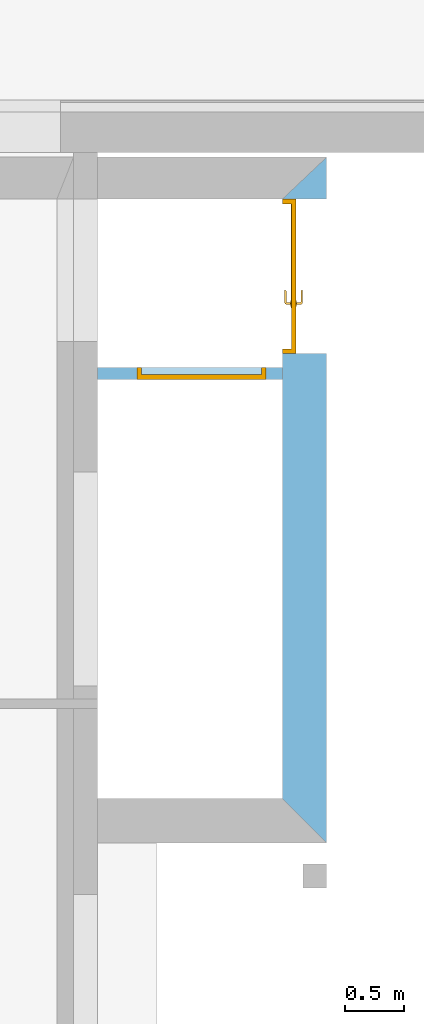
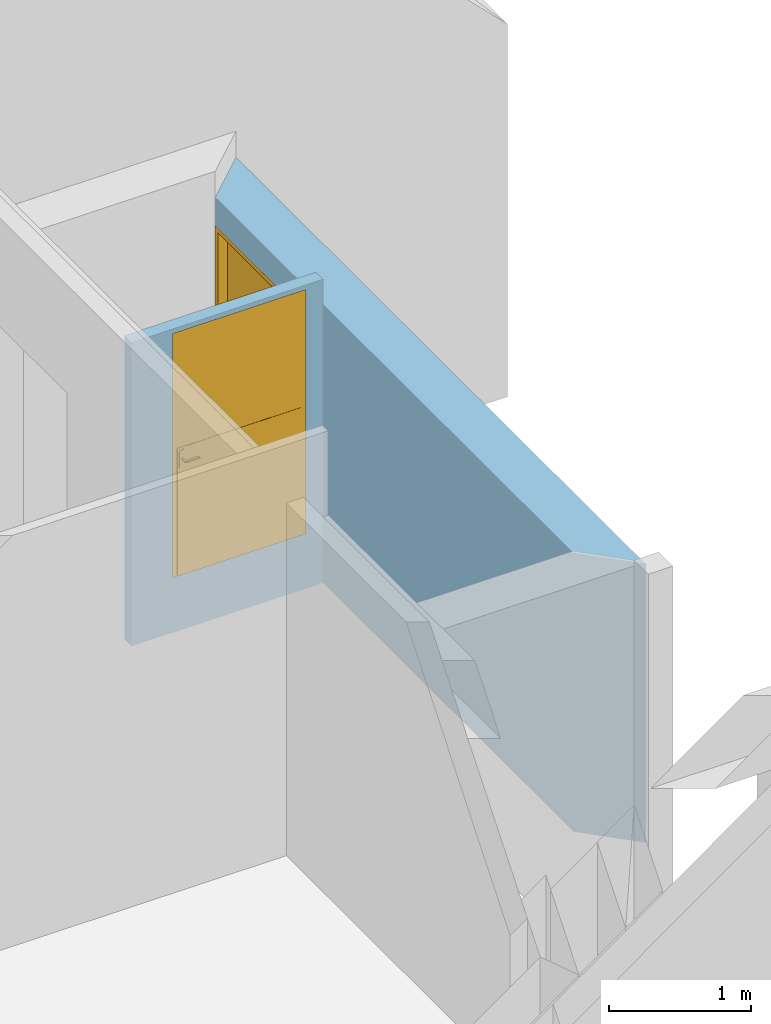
# One storey, part 25 of 34: 2 doors, 2 openings, plus 2 elements that do not belong to this part.
"""IFC2X3 building model written with IfcOpenShell, lengths in metres."""

import ifcopenshell
import ifcopenshell.guid

model = None  # the IFC model being written
_history = None  # IfcOwnerHistory: only IFC2X3 demands one
_inside = {}  # id of a spatial element -> (the spatial element, [elements in it])
_under = {}  # id of a project, library or spatial element -> (it, [spatial elements below it])
_declared = {}  # id of a project -> (the project, [libraries it declares])
_typed = {}  # id of a type object -> (the type object, [elements of that type])
_made_of = {}  # id of a material, layer set ... -> (it, [elements and type objects made of it])


def new_model(schema):
    """Start an empty IFC model of exactly this schema.

    Asked for "IFC4X3", IfcOpenShell would pick the latest addendum, in which some entities
    have other attributes; the version numbers below select the first issue.
    IFC2X3 requires an IfcOwnerHistory on every rooted entity: one is made here for all.
    """
    global model, _history
    if schema == "IFC4X3":
        model = ifcopenshell.file(schema_version=(4, 3, 0, 0))
    else:
        model = ifcopenshell.file(schema=schema)
    _inside.clear()
    _under.clear()
    _declared.clear()
    _typed.clear()
    _made_of.clear()
    _history = None
    if model.schema == "IFC2X3":
        org = make("IfcOrganization", Name="unknown")
        user = make(
            "IfcPersonAndOrganization",
            ThePerson=make("IfcPerson", FamilyName="unknown"),
            TheOrganization=org,
        )
        app = make(
            "IfcApplication",
            ApplicationDeveloper=org,
            Version="unknown",
            ApplicationFullName="unknown",
            ApplicationIdentifier="unknown",
        )
        _history = make(
            "IfcOwnerHistory",
            OwningUser=user,
            OwningApplication=app,
            ChangeAction="ADDED",
            CreationDate=0,
        )
    return model


def make(cls, **values):
    """One entity of the class cls with the attributes given. An attribute that is None is left unset."""
    return model.create_entity(
        cls, **{name: value for name, value in values.items() if value is not None}
    )


def entity(cls, *values):
    """Any entity or typed value of the class cls, its attributes in the order of the schema. None: left unset."""
    e = model.create_entity(cls)
    for i, value in enumerate(values):
        if value is not None:
            e[i] = value
    return e


def rooted(cls, **values):
    """An entity with a GlobalId (a new one), such as an element, a storey or a relation."""
    return make(cls, GlobalId=ifcopenshell.guid.new(), OwnerHistory=_history, **values)


def si_unit(unit_type, name, prefix=None):
    """IfcSIUnit, for example si_unit("LENGTHUNIT", "METRE", prefix="MILLI")."""
    return make("IfcSIUnit", UnitType=unit_type, Prefix=prefix, Name=name)


def converted_unit(unit_type, name, factor, base, dimensions=None, offset=None):
    """IfcConversionBasedUnit, such as the inch: factor (a typed value) times the base unit."""
    return make(
        "IfcConversionBasedUnit"
        if offset is None
        else "IfcConversionBasedUnitWithOffset",
        ConversionOffset=offset,
        Dimensions=None
        if dimensions is None
        else entity("IfcDimensionalExponents", *dimensions),
        UnitType=unit_type,
        Name=name,
        ConversionFactor=make(
            "IfcMeasureWithUnit", ValueComponent=factor, UnitComponent=base
        ),
    )


def derived_unit(unit_type, elements):
    """IfcDerivedUnit: a product of units, each with its exponent."""
    return make(
        "IfcDerivedUnit",
        Elements=[
            make("IfcDerivedUnitElement", Unit=unit, Exponent=power)
            for unit, power in elements
        ],
        UnitType=unit_type,
    )


def money_unit(currency):
    """IfcMonetaryUnit."""
    return make("IfcMonetaryUnit", Currency=currency)


def assignment(units):
    """IfcUnitAssignment: the units of a project."""
    return None if units is None else make("IfcUnitAssignment", Units=units)


def point(xyz):
    """IfcCartesianPoint."""
    return None if xyz is None else make("IfcCartesianPoint", Coordinates=xyz)


def direction(xyz):
    """IfcDirection."""
    return None if xyz is None else make("IfcDirection", DirectionRatios=xyz)


def frame(location, z_axis=None, x_axis=None):
    """IfcAxis2Placement3D, a coordinate frame: its origin and axes. An axis left out is left unset."""
    return make(
        "IfcAxis2Placement3D",
        Location=point(location),
        Axis=direction(z_axis),
        RefDirection=direction(x_axis),
    )


def frame_2d(location, x_axis=None):
    """IfcAxis2Placement2D, a coordinate frame in the plane: its origin and x axis."""
    return make(
        "IfcAxis2Placement2D", Location=point(location), RefDirection=direction(x_axis)
    )


def origin_with_axes():
    """The frame at (0, 0, 0) with the z axis (0, 0, 1) and the x axis (1, 0, 0) written out."""
    return frame((0.0, 0.0, 0.0), z_axis=(0.0, 0.0, 1.0), x_axis=(1.0, 0.0, 0.0))


def origin_2d_with_axis():
    """The frame at (0, 0) in the plane with the x axis (1, 0) written out."""
    return frame_2d((0.0, 0.0), x_axis=(1.0, 0.0))


def place(relative_to, where):
    """IfcLocalPlacement: puts the frame where relative to a parent placement (None: the world)."""
    return make(
        "IfcLocalPlacement", PlacementRelTo=relative_to, RelativePlacement=where
    )


def context(
    kind, dimensions, precision=None, world=None, true_north=None, identifier=None
):
    """IfcGeometricRepresentationContext, for example the 3D "Model" context."""
    return make(
        "IfcGeometricRepresentationContext",
        ContextIdentifier=identifier,
        ContextType=kind,
        CoordinateSpaceDimension=dimensions,
        Precision=precision,
        WorldCoordinateSystem=world,
        TrueNorth=true_north,
    )


def subcontext(parent, identifier, kind, view, scale=None):
    """IfcGeometricRepresentationSubContext, for example "Body" below "Model"."""
    return make(
        "IfcGeometricRepresentationSubContext",
        ContextIdentifier=identifier,
        ContextType=kind,
        ParentContext=parent,
        TargetScale=scale,
        TargetView=view,
    )


def project(units=None, contexts=None):
    """IfcProject with its units and contexts."""
    return rooted(
        "IfcProject",
        Name="project",
        RepresentationContexts=contexts,
        UnitsInContext=assignment(units),
    )


def spatial(cls, under=None, at=None, **own):
    """A site, building, storey or space (cls), placed at a placement, below another one or the project."""
    s = rooted(cls, ObjectPlacement=at, **own)
    if under is not None:
        _under.setdefault(under.id(), (under, []))[1].append(s)
    return s


def polyline(points):
    """IfcPolyline through the points."""
    return make("IfcPolyline", Points=[point(p) for p in points])


def profile(cls, at=None, kind="AREA", **sizes):
    """A parametric profile (cls). Its sizes go by their IFC names, for example OverallWidth=200.0."""
    return make(cls, ProfileType=kind, Position=at, **sizes)


def rectangle(**sizes):
    """IfcRectangleProfileDef."""
    return profile("IfcRectangleProfileDef", **sizes)


def outline(outer, holes=None, kind="AREA"):
    """IfcArbitraryClosedProfileDef: a profile drawn as a closed curve; with holes, ...WithVoids."""
    if holes is None:
        return make("IfcArbitraryClosedProfileDef", ProfileType=kind, OuterCurve=outer)
    return make(
        "IfcArbitraryProfileDefWithVoids",
        ProfileType=kind,
        OuterCurve=outer,
        InnerCurves=holes,
    )


def extrude(swept, where, along, depth):
    """IfcExtrudedAreaSolid: the profile swept, set in the frame where, extruded along a direction by depth."""
    return make(
        "IfcExtrudedAreaSolid",
        SweptArea=swept,
        Position=where,
        ExtrudedDirection=direction(along),
        Depth=depth,
    )


def faces_of(points, faces, orient=None, outer=None):
    """IfcFace entities. A face is a list of loops; a loop is a list of indices into points, from 0.

    orient and outer hold one flag for each loop. By default every Orientation is true, the
    first loop of a face is its IfcFaceOuterBound and the others are IfcFaceBound.
    """
    made = []
    for i, loops in enumerate(faces):
        bounds = []
        for j, loop in enumerate(loops):
            is_outer = j == 0 if outer is None else outer[i][j]
            bounds.append(
                make(
                    "IfcFaceOuterBound" if is_outer else "IfcFaceBound",
                    Bound=make("IfcPolyLoop", Polygon=[points[k] for k in loop]),
                    Orientation=True if orient is None else orient[i][j],
                )
            )
        made.append(make("IfcFace", Bounds=bounds))
    return made


def faceted_brep(points, faces, orient=None, outer=None, voids=None):
    """IfcFacetedBrep: a solid bounded by flat faces; with voids (closed shells), ...WithVoids."""
    shared = [point(p) for p in points]
    hull = make("IfcClosedShell", CfsFaces=faces_of(shared, faces, orient, outer))
    if voids is None:
        return make("IfcFacetedBrep", Outer=hull)
    return make(
        "IfcFacetedBrepWithVoids",
        Outer=hull,
        Voids=[
            make(cls, CfsFaces=faces_of(shared, fs, o, b)) for cls, fs, o, b in voids
        ],
    )


def shape(context_of_items, identifier, shape_type, items):
    """IfcShapeRepresentation: the items that make up one representation, for example the "Body"."""
    return make(
        "IfcShapeRepresentation",
        ContextOfItems=context_of_items,
        RepresentationIdentifier=identifier,
        RepresentationType=shape_type,
        Items=items,
    )


def material(Name=None, Category=None):
    """IfcMaterial."""
    return make("IfcMaterial", Name=Name, Category=Category)


def layer(
    of_material, thickness, ventilated=None, Name=None, Category=None, Priority=None
):
    """IfcMaterialLayer: one layer of a wall or slab, of a material (None: an air gap)."""
    return make(
        "IfcMaterialLayer",
        Material=of_material,
        LayerThickness=thickness,
        IsVentilated=ventilated,
        Name=Name,
        Category=Category,
        Priority=Priority,
    )


def layer_set(layers, Name=None):
    """IfcMaterialLayerSet."""
    return make("IfcMaterialLayerSet", MaterialLayers=layers, LayerSetName=Name)


def layer_usage(for_layer_set, set_direction, sense, offset, extent=None):
    """IfcMaterialLayerSetUsage: how a layer set lies in its element."""
    return make(
        "IfcMaterialLayerSetUsage",
        ForLayerSet=for_layer_set,
        LayerSetDirection=set_direction,
        DirectionSense=sense,
        OffsetFromReferenceLine=offset,
        ReferenceExtent=extent,
    )


def made_of(thing, what):
    """Note that an element or type object is made of a material, layer set ...; save() writes the relation."""
    if what is not None:
        _made_of.setdefault(what.id(), (what, []))[1].append(thing)
    return thing


def type_object(cls, material=None, **own):
    """A type object (cls), such as IfcWallType, which elements share."""
    return made_of(rooted(cls, **own), material)


def element(
    cls,
    number,
    at=None,
    inside=None,
    cuts=None,
    type_object=None,
    material=None,
    context=None,
    identifier="Body",
    shape_type=None,
    held_by="IfcProductDefinitionShape",
    body=None,
    shapes=None,
    **own,
):
    """One element of the class cls, such as IfcWall. Its Tag is "e" and its number.

    at: its placement. inside: the storey or other place that contains it. cuts: it is an
    opening in that element (IfcRelVoidsElement). A single representation is given by context,
    identifier, shape_type and body (its items); several are given by shapes. held_by: the class
    of the entity that holds the representations. save() writes the other relations.
    """
    e = rooted(cls, Tag="e%d" % number, ObjectPlacement=at, **own)
    if body is not None:
        shapes = [shape(context, identifier, shape_type, body)]
    if shapes is not None:
        e.Representation = make(held_by, Representations=shapes)
    if inside is not None:
        _inside.setdefault(inside.id(), (inside, []))[1].append(e)
    if cuts is not None:
        rooted(
            "IfcRelVoidsElement", RelatingBuildingElement=cuts, RelatedOpeningElement=e
        )
    if type_object is not None:
        _typed.setdefault(type_object.id(), (type_object, []))[1].append(e)
    return made_of(e, material)


def fill(opening, filler):
    """IfcRelFillsElement: the door or window that sits in an opening."""
    return rooted(
        "IfcRelFillsElement",
        RelatingOpeningElement=opening,
        RelatedBuildingElement=filler,
    )


def aggregate(whole, parts):
    """IfcRelAggregates: a whole, such as a stair, and the parts it consists of."""
    return rooted("IfcRelAggregates", RelatingObject=whole, RelatedObjects=parts)


def save(model, path):
    """Write the relations noted so far, then the file.

    IfcRelAggregates (storeys below a building ...), IfcRelContainedInSpatialStructure (elements
    in a storey), IfcRelDefinesByType, IfcRelAssociatesMaterial and IfcRelDeclares: one each for
    every whole, place, type object, material and project.
    """
    for whole, parts in _under.values():
        aggregate(whole, parts)
    for where, things in _inside.values():
        rooted(
            "IfcRelContainedInSpatialStructure",
            RelatedElements=things,
            RelatingStructure=where,
        )
    for kind, things in _typed.values():
        rooted("IfcRelDefinesByType", RelatedObjects=things, RelatingType=kind)
    for what, things in _made_of.values():
        rooted("IfcRelAssociatesMaterial", RelatedObjects=things, RelatingMaterial=what)
    for by, libraries in _declared.values():
        rooted("IfcRelDeclares", RelatingContext=by, RelatedDefinitions=libraries)
    model.write(path)


model = new_model("IFC2X3")

# Units and contexts
model_context = context("Model", 3, precision=1e-05, world=origin_with_axes(), true_north=direction((0.0, 1.0)))
body_context = subcontext(model_context, "Body", "Model", "MODEL_VIEW")
ifc_project = project(units=[si_unit("LENGTHUNIT", "METRE"), si_unit("AREAUNIT", "SQUARE_METRE"), si_unit("VOLUMEUNIT", "CUBIC_METRE"), converted_unit("PLANEANGLEUNIT", "DEGREE", entity("IfcPlaneAngleMeasure", 0.0174532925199), si_unit("PLANEANGLEUNIT", "RADIAN"), dimensions=[0, 0, 0, 0, 0, 0, 0]), money_unit("CHF"), converted_unit("TIMEUNIT", "Year", entity("IfcTimeMeasure", 31556926.0), si_unit("TIMEUNIT", "SECOND"), dimensions=[0, 0, 1, 0, 0, 0, 0]), si_unit("MASSUNIT", "GRAM", prefix="KILO"), si_unit("THERMODYNAMICTEMPERATUREUNIT", "DEGREE_CELSIUS"), si_unit("LUMINOUSINTENSITYUNIT", "LUMEN"), si_unit("ENERGYUNIT", "JOULE", prefix="MEGA"), derived_unit("THERMALCONDUCTANCEUNIT", [(si_unit("POWERUNIT", "WATT"), 1), (si_unit("LENGTHUNIT", "METRE"), -1), (si_unit("THERMODYNAMICTEMPERATUREUNIT", "KELVIN"), -1)]), derived_unit("SPECIFICHEATCAPACITYUNIT", [(si_unit("ENERGYUNIT", "JOULE"), 1), (si_unit("MASSUNIT", "GRAM", prefix="KILO"), -1), (si_unit("THERMODYNAMICTEMPERATUREUNIT", "KELVIN"), -1)]), derived_unit("MASSDENSITYUNIT", [(si_unit("MASSUNIT", "GRAM", prefix="KILO"), 1), (si_unit("VOLUMEUNIT", "CUBIC_METRE"), -1)])], contexts=[model_context])

# Site, building, storey
site_placement = place(None, origin_with_axes())
site = spatial("IfcSite", under=ifc_project, at=site_placement, Name="Site", CompositionType="ELEMENT")
building_placement = place(site_placement, origin_with_axes())
building = spatial("IfcBuilding", under=site, at=building_placement, Name="Bâtiment", CompositionType="ELEMENT")
storey_placement = place(building_placement, origin_with_axes())
storey = spatial("IfcBuildingStorey", under=building, at=storey_placement, Name="RDC", CompositionType="ELEMENT", Elevation=-5.32907e-15)

# Wall, opening, door
ifc_material_1 = material(Name="Plâtre lissé 291446788")
ifc_layer_1 = layer(ifc_material_1, 0.015, ventilated="UNKNOWN")
ifc_material_2 = material(Name="Isolation laine de pierre 307970822")
ifc_layer_2 = layer(ifc_material_2, 0.07, ventilated="UNKNOWN")
ifc_layer_3 = layer(ifc_material_1, 0.015, ventilated="UNKNOWN")
ifc_layer_set_1 = layer_set([ifc_layer_1, ifc_layer_2, ifc_layer_3], Name="CLOISON 10 ROUGE")
ifc_layer_usage_1 = layer_usage(ifc_layer_set_1, "AXIS2", "POSITIVE", 0.0)
wall_type_1 = type_object("IfcWallType", Name="CLOISON 10 ROUGE 100", PredefinedType="NOTDEFINED")
wall_1_placement = place(storey_placement, frame((1697.68729001, 188.45004191, 0.47), z_axis=(0.0, 0.0, 1.0), x_axis=(-1.0, 0.0, 0.0)))
wall_1 = element("IfcWallStandardCase", 1, at=wall_1_placement, inside=storey, type_object=wall_type_1, material=ifc_layer_usage_1, Name="Mur-010", context=body_context, shape_type="SweptSolid", body=[
    extrude(outline(polyline([(0.373, 0.0), (1.93003316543, 0.0), (1.93003316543, 0.1), (0.373, 0.1), (0.373, 0.0)])), origin_with_axes(), (0.0, 0.0, 1.0), 2.60823220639),
])
opening_1_placement = place(wall_1_placement, frame((1.05332096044, 0.0, 0.47), z_axis=(0.0, 0.0, 1.0), x_axis=(1.0, 0.0, 0.0)))
opening_1 = element("IfcOpeningElement", 2, at=opening_1_placement, cuts=wall_1, Name="Por-004", context=body_context, shape_type="SweptSolid", body=[
    extrude(rectangle(XDim=1.086, YDim=2.1, at=origin_2d_with_axis()), frame((0.0, 0.1, 1.05), z_axis=(0.0, 1.0, 0.0), x_axis=(-1.0, 0.0, 0.0)), (0.0, 0.0, -1.0), 0.3),
])
door_style_1 = type_object("IfcDoorStyle", Name="Porte 25", ConstructionType="NOTDEFINED", OperationType="SINGLE_SWING_LEFT", ParameterTakesPrecedence=False, Sizeable=False)
door_1_placement = place(opening_1_placement, frame((-0.515, 0.0, 0.0), z_axis=(0.0, 0.0, 1.0), x_axis=(1.0, 0.0, 0.0)))
door_1 = element("IfcDoor", 3, at=door_1_placement, inside=storey, type_object=door_style_1, Name="Por-004", OverallHeight=2.1, OverallWidth=1.086, context=body_context, shape_type="Brep", body=[
    faceted_brep([(1.018, 0.06, 0.0), (1.018, 0.0, 0.0), (1.018, 0.0, 2.06), (1.018, 0.06, 2.06), (1.03, 0.06, 0.0), (1.03, 0.1, 0.0), (1.058, 0.1, 0.0), (1.058, 0.0, 0.0), (1.058, 0.0, 2.06), (1.03, 0.06, 2.06), (1.058, 0.1, 2.06), (1.03, 0.1, 2.06)], [[[0, 1, 2, 3]], [[4, 5, 6, 7, 1, 0]], [[1, 7, 8, 2]], [[9, 3, 2, 8, 10, 11]], [[9, 4, 0, 3]], [[11, 5, 4, 9]], [[11, 10, 6, 5]], [[6, 10, 8, 7]]]),
    faceted_brep([(0.0, 0.06, 2.06), (0.0, 0.1, 2.06), (-0.028, 0.1, 2.06), (-0.028, 0.0, 2.06), (0.012, 0.0, 2.06), (0.012, 0.06, 2.06), (0.0, 0.06, 0.0), (0.0, 0.1, 0.0), (-0.028, 0.1, 0.0), (-0.028, 0.0, 0.0), (0.012, 0.0, 0.0), (0.012, 0.06, 0.0)], [[[0, 1, 2, 3, 4, 5]], [[0, 6, 7, 1]], [[7, 8, 2, 1]], [[2, 8, 9, 3]], [[3, 9, 10, 4]], [[5, 4, 10, 11]], [[5, 11, 6, 0]], [[6, 11, 10, 9, 8, 7]]]),
    faceted_brep([(1.03, 0.1, 2.072), (0.0, 0.1, 2.072), (0.0, 0.1, 2.06), (-0.028, 0.1, 2.06), (-0.028, 0.1, 2.1), (1.058, 0.1, 2.1), (1.058, 0.1, 2.06), (1.03, 0.1, 2.06), (1.03, 0.06, 2.072), (0.0, 0.06, 2.072), (0.0, 0.06, 2.06), (0.012, 0.06, 2.06), (0.012, 0.0, 2.06), (-0.028, 0.0, 2.06), (-0.028, 0.0, 2.1), (1.058, 0.0, 2.1), (1.058, 0.0, 2.06), (1.03, 0.06, 2.06), (1.018, 0.0, 2.06), (1.018, 0.06, 2.06)], [[[0, 1, 2, 3, 4, 5, 6, 7]], [[0, 8, 9, 1]], [[1, 9, 10, 2]], [[10, 11, 12, 13, 3, 2]], [[4, 3, 13, 14]], [[5, 4, 14, 15]], [[6, 5, 15, 16]], [[17, 7, 6, 16, 18, 19]], [[7, 17, 8, 0]], [[10, 9, 8, 17, 19, 11]], [[19, 18, 12, 11]], [[12, 18, 16, 15, 14, 13]]]),
    faceted_brep([(1.005, 0.06, 0.93), (1.005, 0.055, 0.93), (1.00309698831, 0.055, 0.920432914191), (1.00309698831, 0.06, 0.920432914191), (1.005, 0.06, 1.055), (1.005, 0.055, 1.055), (1.00309698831, 0.055, 1.06456708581), (0.99767766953, 0.055, 1.07267766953), (0.989567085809, 0.055, 1.07809698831), (0.98, 0.055, 1.08), (0.970432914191, 0.055, 1.07809698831), (0.96232233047, 0.055, 1.07267766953), (0.956903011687, 0.055, 1.06456708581), (0.955, 0.055, 1.055), (0.955, 0.055, 0.93), (0.956903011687, 0.055, 0.920432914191), (0.96232233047, 0.055, 0.91232233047), (0.970432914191, 0.055, 0.906903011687), (0.98, 0.055, 0.905), (0.989567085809, 0.055, 0.906903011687), (0.99767766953, 0.055, 0.91232233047), (0.99767766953, 0.06, 0.91232233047), (0.989567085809, 0.06, 0.906903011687), (0.98, 0.06, 0.905), (0.970432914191, 0.06, 0.906903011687), (0.96232233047, 0.06, 0.91232233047), (0.956903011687, 0.06, 0.920432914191), (0.955, 0.06, 0.93), (0.955, 0.06, 1.055), (0.956903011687, 0.06, 1.06456708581), (0.96232233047, 0.06, 1.07267766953), (0.970432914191, 0.06, 1.07809698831), (0.98, 0.06, 1.08), (0.989567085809, 0.06, 1.07809698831), (0.99767766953, 0.06, 1.07267766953), (1.00309698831, 0.06, 1.06456708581)], [[[0, 1, 2, 3]], [[4, 5, 1, 0]], [[1, 5, 6, 7, 8, 9, 10, 11, 12, 13, 14, 15, 16, 17, 18, 19, 20, 2]], [[3, 2, 20, 21]], [[0, 3, 21, 22, 23, 24, 25, 26, 27, 28, 29, 30, 31, 32, 33, 34, 35, 4]], [[35, 6, 5, 4]], [[34, 7, 6, 35]], [[33, 8, 7, 34]], [[32, 9, 8, 33]], [[31, 10, 9, 32]], [[30, 11, 10, 31]], [[29, 12, 11, 30]], [[28, 13, 12, 29]], [[27, 14, 13, 28]], [[26, 15, 14, 27]], [[25, 16, 15, 26]], [[24, 17, 16, 25]], [[23, 18, 17, 24]], [[22, 19, 18, 23]], [[21, 20, 19, 22]]]),
    faceted_brep([(0.9725, 0.055, 1.005), (0.9725, 0.055, 0.995), (0.9725, 0.025, 0.995), (0.9725, 0.025, 1.005), (0.9875, 0.055, 1.005), (0.9875, 0.055, 0.995), (0.9875, 0.018, 0.995), (0.986510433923, 0.0130251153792, 0.995), (0.983692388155, 0.00880761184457, 0.995), (0.979474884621, 0.00598956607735, 0.995), (0.9745, 0.005, 0.995), (0.8675, 0.005, 0.995), (0.8675, 0.00699999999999, 0.995), (0.868489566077, 0.0119748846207, 0.995), (0.871307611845, 0.0161923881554, 0.995), (0.875525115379, 0.0190104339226, 0.995), (0.8805, 0.02, 0.995), (0.9675, 0.02, 0.995), (0.969413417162, 0.0203806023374, 0.995), (0.971035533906, 0.0214644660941, 0.995), (0.972119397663, 0.0230865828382, 0.995), (0.972119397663, 0.0230865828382, 1.005), (0.971035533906, 0.0214644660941, 1.005), (0.969413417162, 0.0203806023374, 1.005), (0.9675, 0.02, 1.005), (0.8805, 0.02, 1.005), (0.875525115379, 0.0190104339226, 1.005), (0.871307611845, 0.0161923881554, 1.005), (0.868489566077, 0.0119748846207, 1.005), (0.8675, 0.00699999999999, 1.005), (0.8675, 0.005, 1.005), (0.9745, 0.005, 1.005), (0.979474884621, 0.00598956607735, 1.005), (0.983692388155, 0.00880761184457, 1.005), (0.986510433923, 0.0130251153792, 1.005), (0.9875, 0.018, 1.005)], [[[0, 1, 2, 3]], [[4, 5, 1, 0]], [[1, 5, 6, 7, 8, 9, 10, 11, 12, 13, 14, 15, 16, 17, 18, 19, 20, 2]], [[3, 2, 20, 21]], [[0, 3, 21, 22, 23, 24, 25, 26, 27, 28, 29, 30, 31, 32, 33, 34, 35, 4]], [[35, 6, 5, 4]], [[34, 7, 6, 35]], [[33, 8, 7, 34]], [[32, 9, 8, 33]], [[31, 10, 9, 32]], [[30, 11, 10, 31]], [[29, 12, 11, 30]], [[28, 13, 12, 29]], [[27, 14, 13, 28]], [[26, 15, 14, 27]], [[25, 16, 15, 26]], [[24, 17, 16, 25]], [[23, 18, 17, 24]], [[22, 19, 18, 23]], [[21, 20, 19, 22]]]),
    faceted_brep([(1.005, 0.1, 0.93), (1.00309698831, 0.1, 0.920432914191), (1.00309698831, 0.105, 0.920432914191), (1.005, 0.105, 0.93), (1.005, 0.1, 1.055), (1.00309698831, 0.1, 1.06456708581), (0.99767766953, 0.1, 1.07267766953), (0.989567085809, 0.1, 1.07809698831), (0.98, 0.1, 1.08), (0.970432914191, 0.1, 1.07809698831), (0.96232233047, 0.1, 1.07267766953), (0.956903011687, 0.1, 1.06456708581), (0.955, 0.1, 1.055), (0.955, 0.1, 0.93), (0.956903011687, 0.1, 0.920432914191), (0.96232233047, 0.1, 0.91232233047), (0.970432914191, 0.1, 0.906903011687), (0.98, 0.1, 0.905), (0.989567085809, 0.1, 0.906903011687), (0.99767766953, 0.1, 0.91232233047), (0.99767766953, 0.105, 0.91232233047), (0.989567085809, 0.105, 0.906903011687), (0.98, 0.105, 0.905), (0.970432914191, 0.105, 0.906903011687), (0.96232233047, 0.105, 0.91232233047), (0.956903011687, 0.105, 0.920432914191), (0.955, 0.105, 0.93), (0.955, 0.105, 1.055), (0.956903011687, 0.105, 1.06456708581), (0.96232233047, 0.105, 1.07267766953), (0.970432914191, 0.105, 1.07809698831), (0.98, 0.105, 1.08), (0.989567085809, 0.105, 1.07809698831), (0.99767766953, 0.105, 1.07267766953), (1.00309698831, 0.105, 1.06456708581), (1.005, 0.105, 1.055)], [[[0, 1, 2, 3]], [[0, 4, 5, 6, 7, 8, 9, 10, 11, 12, 13, 14, 15, 16, 17, 18, 19, 1]], [[1, 19, 20, 2]], [[3, 2, 20, 21, 22, 23, 24, 25, 26, 27, 28, 29, 30, 31, 32, 33, 34, 35]], [[4, 0, 3, 35]], [[5, 4, 35, 34]], [[6, 5, 34, 33]], [[7, 6, 33, 32]], [[8, 7, 32, 31]], [[9, 8, 31, 30]], [[10, 9, 30, 29]], [[11, 10, 29, 28]], [[12, 11, 28, 27]], [[13, 12, 27, 26]], [[14, 13, 26, 25]], [[15, 14, 25, 24]], [[16, 15, 24, 23]], [[17, 16, 23, 22]], [[18, 17, 22, 21]], [[19, 18, 21, 20]]]),
    faceted_brep([(0.9725, 0.105, 1.005), (0.9725, 0.135, 1.005), (0.9725, 0.135, 0.995), (0.9725, 0.105, 0.995), (0.9875, 0.105, 1.005), (0.9875, 0.142, 1.005), (0.986510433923, 0.146974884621, 1.005), (0.983692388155, 0.151192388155, 1.005), (0.979474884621, 0.154010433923, 1.005), (0.9745, 0.155, 1.005), (0.8675, 0.155, 1.005), (0.8675, 0.153, 1.005), (0.868489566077, 0.148025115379, 1.005), (0.871307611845, 0.143807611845, 1.005), (0.875525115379, 0.140989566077, 1.005), (0.8805, 0.14, 1.005), (0.9675, 0.14, 1.005), (0.969413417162, 0.139619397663, 1.005), (0.971035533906, 0.138535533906, 1.005), (0.972119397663, 0.136913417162, 1.005), (0.972119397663, 0.136913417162, 0.995), (0.971035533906, 0.138535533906, 0.995), (0.969413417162, 0.139619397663, 0.995), (0.9675, 0.14, 0.995), (0.8805, 0.14, 0.995), (0.875525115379, 0.140989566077, 0.995), (0.871307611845, 0.143807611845, 0.995), (0.868489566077, 0.148025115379, 0.995), (0.8675, 0.153, 0.995), (0.8675, 0.155, 0.995), (0.9745, 0.155, 0.995), (0.979474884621, 0.154010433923, 0.995), (0.983692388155, 0.151192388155, 0.995), (0.986510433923, 0.146974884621, 0.995), (0.9875, 0.142, 0.995), (0.9875, 0.105, 0.995)], [[[0, 1, 2, 3]], [[0, 4, 5, 6, 7, 8, 9, 10, 11, 12, 13, 14, 15, 16, 17, 18, 19, 1]], [[1, 19, 20, 2]], [[3, 2, 20, 21, 22, 23, 24, 25, 26, 27, 28, 29, 30, 31, 32, 33, 34, 35]], [[4, 0, 3, 35]], [[5, 4, 35, 34]], [[6, 5, 34, 33]], [[7, 6, 33, 32]], [[8, 7, 32, 31]], [[9, 8, 31, 30]], [[10, 9, 30, 29]], [[11, 10, 29, 28]], [[12, 11, 28, 27]], [[13, 12, 27, 26]], [[14, 13, 26, 25]], [[15, 14, 25, 24]], [[16, 15, 24, 23]], [[17, 16, 23, 22]], [[18, 17, 22, 21]], [[19, 18, 21, 20]]]),
    faceted_brep([(0.00999999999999, 0.058, 0.01), (0.00999999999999, 0.06, 0.01), (1.02, 0.06, 0.01), (1.02, 0.058, 0.01), (0.00999999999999, 0.058, 1.1), (0.00999999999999, 0.06, 1.1), (1.02, 0.06, 1.1), (1.02, 0.058, 1.1)], [[[0, 1, 2, 3]], [[4, 5, 1, 0]], [[1, 5, 6, 2]], [[3, 2, 6, 7]], [[0, 3, 7, 4]], [[7, 6, 5, 4]]]),
    faceted_brep([(0.00999999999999, 0.1, 0.01), (0.00999999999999, 0.102, 0.01), (1.02, 0.102, 0.01), (1.02, 0.1, 0.01), (0.00999999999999, 0.1, 1.1), (0.00999999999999, 0.102, 1.1), (1.02, 0.102, 1.1), (1.02, 0.1, 1.1)], [[[0, 1, 2, 3]], [[4, 5, 1, 0]], [[1, 5, 6, 2]], [[3, 2, 6, 7]], [[0, 3, 7, 4]], [[7, 6, 5, 4]]]),
    faceted_brep([(0.0, 0.1, 0.0), (1.03, 0.1, 0.0), (1.03, 0.06, 0.0), (0.0, 0.06, 0.0), (0.0, 0.1, 2.072), (1.03, 0.1, 2.072), (1.03, 0.06, 2.072), (0.0, 0.06, 2.072)], [[[0, 1, 2, 3]], [[0, 4, 5, 1]], [[1, 5, 6, 2]], [[3, 2, 6, 7]], [[4, 0, 3, 7]], [[5, 4, 7, 6]]]),
])
fill(opening_1, door_1)

ifc_material_3 = material(Name="Sans Trame 1167258944")
ifc_layer_4 = layer(ifc_material_3, 0.02, ventilated="UNKNOWN")
ifc_material_4 = material(Name="50 % 1167783752")
ifc_layer_5 = layer(ifc_material_4, 0.2, ventilated="UNKNOWN")
ifc_material_5 = material(Name="Isolation laine de pierre 378182646")
ifc_layer_6 = layer(ifc_material_5, 0.14, ventilated="UNKNOWN")
ifc_layer_7 = layer(ifc_material_1, 0.013, ventilated="UNKNOWN")
ifc_layer_set_2 = layer_set([ifc_layer_4, ifc_layer_5, ifc_layer_6, ifc_layer_7], Name="Mur: béton + isolant + revêt int")
ifc_layer_usage_2 = layer_usage(ifc_layer_set_2, "AXIS2", "NEGATIVE", 0.0)
wall_type_2 = type_object("IfcWallType", Name="Mur: béton + isolant + revêt int 373", PredefinedType="NOTDEFINED")
wall_2_placement = place(storey_placement, frame((1697.68729001, 190.22004191, 0.47), z_axis=(0.0, 0.0, 1.0), x_axis=(0.0, -1.0, 0.0)))
wall_2 = element("IfcWallStandardCase", 4, at=wall_2_placement, inside=storey, type_object=wall_type_2, material=ifc_layer_usage_2, Name="Mur-004", context=body_context, shape_type="SweptSolid", body=[
    extrude(outline(polyline([(0.353, -0.373), (5.397, -0.373), (5.77, 0.0), (0.0, 0.0), (0.353, -0.373)])), origin_with_axes(), (0.0, 0.0, 1.0), 2.3932322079),
])
opening_2_placement = place(wall_2_placement, frame((1.003, 0.0, 0.0), z_axis=(0.0, 0.0, 1.0), x_axis=(1.0, 0.0, 0.0)))
opening_2 = element("IfcOpeningElement", 5, at=opening_2_placement, cuts=wall_2, Name="Por-006", context=body_context, shape_type="SweptSolid", body=[
    extrude(rectangle(XDim=1.3, YDim=2.15, at=origin_2d_with_axis()), frame((0.0, 0.373, 1.075), z_axis=(0.0, 1.0, 0.0), x_axis=(-1.0, 0.0, 0.0)), (0.0, 0.0, -1.0), 1.119),
])
door_style_2 = type_object("IfcDoorStyle", Name="Porte double asymétrique 25", ConstructionType="NOTDEFINED", OperationType="DOUBLE_DOOR_SINGLE_SWING", ParameterTakesPrecedence=False, Sizeable=False)
door_2_placement = place(opening_2_placement, frame((-0.65, 0.0, 0.0), z_axis=(0.0, 0.0, 1.0), x_axis=(1.0, 0.0, 0.0)))
door_2 = element("IfcDoor", 6, at=door_2_placement, inside=storey, type_object=door_style_2, Name="Por-006", OverallHeight=2.15, OverallWidth=1.3, context=body_context, shape_type="Brep", body=[
    faceted_brep([(1.26, -0.298, 0.0), (1.26, -0.373, 0.0), (1.26, -0.373, 2.11), (1.26, -0.298, 2.11), (1.272, -0.298, 0.0), (1.272, -0.258, 0.0), (1.3, -0.258, 0.0), (1.3, -0.373, 0.0), (1.3, -0.373, 2.11), (1.272, -0.298, 2.11), (1.3, -0.258, 2.11), (1.272, -0.258, 2.11)], [[[0, 1, 2, 3]], [[4, 5, 6, 7, 1, 0]], [[1, 7, 8, 2]], [[9, 3, 2, 8, 10, 11]], [[9, 4, 0, 3]], [[11, 5, 4, 9]], [[11, 10, 6, 5]], [[6, 10, 8, 7]]]),
    faceted_brep([(0.028, -0.298, 2.11), (0.028, -0.258, 2.11), (0.0, -0.258, 2.11), (0.0, -0.373, 2.11), (0.04, -0.373, 2.11), (0.04, -0.298, 2.11), (0.028, -0.298, 0.0), (0.028, -0.258, 0.0), (0.0, -0.258, 0.0), (0.0, -0.373, 0.0), (0.04, -0.373, 0.0), (0.04, -0.298, 0.0)], [[[0, 1, 2, 3, 4, 5]], [[0, 6, 7, 1]], [[7, 8, 2, 1]], [[2, 8, 9, 3]], [[3, 9, 10, 4]], [[5, 4, 10, 11]], [[5, 11, 6, 0]], [[6, 11, 10, 9, 8, 7]]]),
    faceted_brep([(1.272, -0.258, 2.122), (0.028, -0.258, 2.122), (0.028, -0.258, 2.11), (0.0, -0.258, 2.11), (0.0, -0.258, 2.15), (1.3, -0.258, 2.15), (1.3, -0.258, 2.11), (1.272, -0.258, 2.11), (1.272, -0.298, 2.122), (0.028, -0.298, 2.122), (0.028, -0.298, 2.11), (0.04, -0.298, 2.11), (0.04, -0.373, 2.11), (0.0, -0.373, 2.11), (0.0, -0.373, 2.15), (1.3, -0.373, 2.15), (1.3, -0.373, 2.11), (1.272, -0.298, 2.11), (1.26, -0.373, 2.11), (1.26, -0.298, 2.11)], [[[0, 1, 2, 3, 4, 5, 6, 7]], [[0, 8, 9, 1]], [[1, 9, 10, 2]], [[10, 11, 12, 13, 3, 2]], [[4, 3, 13, 14]], [[5, 4, 14, 15]], [[6, 5, 15, 16]], [[17, 7, 6, 16, 18, 19]], [[7, 17, 8, 0]], [[10, 9, 8, 17, 19, 11]], [[19, 18, 12, 11]], [[12, 18, 16, 15, 14, 13]]]),
    faceted_brep([(0.903, -0.298, 0.93), (0.903, -0.303, 0.93), (0.901096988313, -0.303, 0.920432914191), (0.901096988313, -0.298, 0.920432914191), (0.903, -0.298, 1.055), (0.903, -0.303, 1.055), (0.901096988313, -0.303, 1.06456708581), (0.89567766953, -0.303, 1.07267766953), (0.887567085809, -0.303, 1.07809698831), (0.878, -0.303, 1.08), (0.868432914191, -0.303, 1.07809698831), (0.86032233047, -0.303, 1.07267766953), (0.854903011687, -0.303, 1.06456708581), (0.853, -0.303, 1.055), (0.853, -0.303, 0.93), (0.854903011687, -0.303, 0.920432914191), (0.86032233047, -0.303, 0.91232233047), (0.868432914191, -0.303, 0.906903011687), (0.878, -0.303, 0.905), (0.887567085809, -0.303, 0.906903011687), (0.89567766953, -0.303, 0.91232233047), (0.89567766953, -0.298, 0.91232233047), (0.887567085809, -0.298, 0.906903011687), (0.878, -0.298, 0.905), (0.868432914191, -0.298, 0.906903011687), (0.86032233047, -0.298, 0.91232233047), (0.854903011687, -0.298, 0.920432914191), (0.853, -0.298, 0.93), (0.853, -0.298, 1.055), (0.854903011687, -0.298, 1.06456708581), (0.86032233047, -0.298, 1.07267766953), (0.868432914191, -0.298, 1.07809698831), (0.878, -0.298, 1.08), (0.887567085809, -0.298, 1.07809698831), (0.89567766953, -0.298, 1.07267766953), (0.901096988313, -0.298, 1.06456708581)], [[[0, 1, 2, 3]], [[4, 5, 1, 0]], [[1, 5, 6, 7, 8, 9, 10, 11, 12, 13, 14, 15, 16, 17, 18, 19, 20, 2]], [[3, 2, 20, 21]], [[0, 3, 21, 22, 23, 24, 25, 26, 27, 28, 29, 30, 31, 32, 33, 34, 35, 4]], [[35, 6, 5, 4]], [[34, 7, 6, 35]], [[33, 8, 7, 34]], [[32, 9, 8, 33]], [[31, 10, 9, 32]], [[30, 11, 10, 31]], [[29, 12, 11, 30]], [[28, 13, 12, 29]], [[27, 14, 13, 28]], [[26, 15, 14, 27]], [[25, 16, 15, 26]], [[24, 17, 16, 25]], [[23, 18, 17, 24]], [[22, 19, 18, 23]], [[21, 20, 19, 22]]]),
    faceted_brep([(0.8705, -0.303, 1.005), (0.8705, -0.303, 0.995), (0.8705, -0.333, 0.995), (0.8705, -0.333, 1.005), (0.8855, -0.303, 1.005), (0.8855, -0.303, 0.995), (0.8855, -0.34, 0.995), (0.884510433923, -0.344974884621, 0.995), (0.881692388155, -0.349192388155, 0.995), (0.877474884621, -0.352010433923, 0.995), (0.8725, -0.353, 0.995), (0.7655, -0.353, 0.995), (0.7655, -0.351, 0.995), (0.766489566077, -0.346025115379, 0.995), (0.769307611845, -0.341807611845, 0.995), (0.773525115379, -0.338989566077, 0.995), (0.7785, -0.338, 0.995), (0.8655, -0.338, 0.995), (0.867413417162, -0.337619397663, 0.995), (0.869035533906, -0.336535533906, 0.995), (0.870119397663, -0.334913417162, 0.995), (0.870119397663, -0.334913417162, 1.005), (0.869035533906, -0.336535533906, 1.005), (0.867413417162, -0.337619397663, 1.005), (0.8655, -0.338, 1.005), (0.7785, -0.338, 1.005), (0.773525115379, -0.338989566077, 1.005), (0.769307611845, -0.341807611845, 1.005), (0.766489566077, -0.346025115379, 1.005), (0.7655, -0.351, 1.005), (0.7655, -0.353, 1.005), (0.8725, -0.353, 1.005), (0.877474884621, -0.352010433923, 1.005), (0.881692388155, -0.349192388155, 1.005), (0.884510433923, -0.344974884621, 1.005), (0.8855, -0.34, 1.005)], [[[0, 1, 2, 3]], [[4, 5, 1, 0]], [[1, 5, 6, 7, 8, 9, 10, 11, 12, 13, 14, 15, 16, 17, 18, 19, 20, 2]], [[3, 2, 20, 21]], [[0, 3, 21, 22, 23, 24, 25, 26, 27, 28, 29, 30, 31, 32, 33, 34, 35, 4]], [[35, 6, 5, 4]], [[34, 7, 6, 35]], [[33, 8, 7, 34]], [[32, 9, 8, 33]], [[31, 10, 9, 32]], [[30, 11, 10, 31]], [[29, 12, 11, 30]], [[28, 13, 12, 29]], [[27, 14, 13, 28]], [[26, 15, 14, 27]], [[25, 16, 15, 26]], [[24, 17, 16, 25]], [[23, 18, 17, 24]], [[22, 19, 18, 23]], [[21, 20, 19, 22]]]),
    faceted_brep([(0.903, -0.258, 0.93), (0.901096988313, -0.258, 0.920432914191), (0.901096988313, -0.253, 0.920432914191), (0.903, -0.253, 0.93), (0.903, -0.258, 1.055), (0.901096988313, -0.258, 1.06456708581), (0.89567766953, -0.258, 1.07267766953), (0.887567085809, -0.258, 1.07809698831), (0.878, -0.258, 1.08), (0.868432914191, -0.258, 1.07809698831), (0.86032233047, -0.258, 1.07267766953), (0.854903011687, -0.258, 1.06456708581), (0.853, -0.258, 1.055), (0.853, -0.258, 0.93), (0.854903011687, -0.258, 0.920432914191), (0.86032233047, -0.258, 0.91232233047), (0.868432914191, -0.258, 0.906903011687), (0.878, -0.258, 0.905), (0.887567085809, -0.258, 0.906903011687), (0.89567766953, -0.258, 0.91232233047), (0.89567766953, -0.253, 0.91232233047), (0.887567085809, -0.253, 0.906903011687), (0.878, -0.253, 0.905), (0.868432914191, -0.253, 0.906903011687), (0.86032233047, -0.253, 0.91232233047), (0.854903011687, -0.253, 0.920432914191), (0.853, -0.253, 0.93), (0.853, -0.253, 1.055), (0.854903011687, -0.253, 1.06456708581), (0.86032233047, -0.253, 1.07267766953), (0.868432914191, -0.253, 1.07809698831), (0.878, -0.253, 1.08), (0.887567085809, -0.253, 1.07809698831), (0.89567766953, -0.253, 1.07267766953), (0.901096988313, -0.253, 1.06456708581), (0.903, -0.253, 1.055)], [[[0, 1, 2, 3]], [[0, 4, 5, 6, 7, 8, 9, 10, 11, 12, 13, 14, 15, 16, 17, 18, 19, 1]], [[1, 19, 20, 2]], [[3, 2, 20, 21, 22, 23, 24, 25, 26, 27, 28, 29, 30, 31, 32, 33, 34, 35]], [[4, 0, 3, 35]], [[5, 4, 35, 34]], [[6, 5, 34, 33]], [[7, 6, 33, 32]], [[8, 7, 32, 31]], [[9, 8, 31, 30]], [[10, 9, 30, 29]], [[11, 10, 29, 28]], [[12, 11, 28, 27]], [[13, 12, 27, 26]], [[14, 13, 26, 25]], [[15, 14, 25, 24]], [[16, 15, 24, 23]], [[17, 16, 23, 22]], [[18, 17, 22, 21]], [[19, 18, 21, 20]]]),
    faceted_brep([(0.8705, -0.253, 1.005), (0.8705, -0.223, 1.005), (0.8705, -0.223, 0.995), (0.8705, -0.253, 0.995), (0.8855, -0.253, 1.005), (0.8855, -0.216, 1.005), (0.884510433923, -0.211025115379, 1.005), (0.881692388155, -0.206807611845, 1.005), (0.877474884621, -0.203989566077, 1.005), (0.8725, -0.203, 1.005), (0.7655, -0.203, 1.005), (0.7655, -0.205, 1.005), (0.766489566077, -0.209974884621, 1.005), (0.769307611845, -0.214192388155, 1.005), (0.773525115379, -0.217010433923, 1.005), (0.7785, -0.218, 1.005), (0.8655, -0.218, 1.005), (0.867413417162, -0.218380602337, 1.005), (0.869035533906, -0.219464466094, 1.005), (0.870119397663, -0.221086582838, 1.005), (0.870119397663, -0.221086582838, 0.995), (0.869035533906, -0.219464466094, 0.995), (0.867413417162, -0.218380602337, 0.995), (0.8655, -0.218, 0.995), (0.7785, -0.218, 0.995), (0.773525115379, -0.217010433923, 0.995), (0.769307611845, -0.214192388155, 0.995), (0.766489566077, -0.209974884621, 0.995), (0.7655, -0.205, 0.995), (0.7655, -0.203, 0.995), (0.8725, -0.203, 0.995), (0.877474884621, -0.203989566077, 0.995), (0.881692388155, -0.206807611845, 0.995), (0.884510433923, -0.211025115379, 0.995), (0.8855, -0.216, 0.995), (0.8855, -0.253, 0.995)], [[[0, 1, 2, 3]], [[0, 4, 5, 6, 7, 8, 9, 10, 11, 12, 13, 14, 15, 16, 17, 18, 19, 1]], [[1, 19, 20, 2]], [[3, 2, 20, 21, 22, 23, 24, 25, 26, 27, 28, 29, 30, 31, 32, 33, 34, 35]], [[4, 0, 3, 35]], [[5, 4, 35, 34]], [[6, 5, 34, 33]], [[7, 6, 33, 32]], [[8, 7, 32, 31]], [[9, 8, 31, 30]], [[10, 9, 30, 29]], [[11, 10, 29, 28]], [[12, 11, 28, 27]], [[13, 12, 27, 26]], [[14, 13, 26, 25]], [[15, 14, 25, 24]], [[16, 15, 24, 23]], [[17, 16, 23, 22]], [[18, 17, 22, 21]], [[19, 18, 21, 20]]]),
    faceted_brep([(0.038, -0.3, 0.01), (0.038, -0.298, 0.01), (0.918, -0.298, 0.01), (0.918, -0.3, 0.01), (0.038, -0.3, 1.1), (0.038, -0.298, 1.1), (0.918, -0.298, 1.1), (0.918, -0.3, 1.1)], [[[0, 1, 2, 3]], [[4, 5, 1, 0]], [[1, 5, 6, 2]], [[3, 2, 6, 7]], [[0, 3, 7, 4]], [[7, 6, 5, 4]]]),
    faceted_brep([(0.028, -0.258, 0.0), (0.928, -0.258, 0.0), (0.928, -0.298, 0.0), (0.028, -0.298, 0.0), (0.028, -0.258, 2.122), (0.928, -0.258, 2.122), (0.928, -0.298, 2.122), (0.028, -0.298, 2.122)], [[[0, 1, 2, 3]], [[0, 4, 5, 1]], [[1, 5, 6, 2]], [[3, 2, 6, 7]], [[4, 0, 3, 7]], [[5, 4, 7, 6]]]),
    faceted_brep([(1.272, -0.258, 0.0), (1.272, -0.298, 0.0), (0.928, -0.298, 0.0), (0.928, -0.258, 0.0), (1.272, -0.258, 2.122), (1.272, -0.298, 2.122), (0.928, -0.298, 2.122), (0.928, -0.258, 2.122)], [[[0, 1, 2, 3]], [[4, 5, 1, 0]], [[1, 5, 6, 2]], [[3, 2, 6, 7]], [[0, 3, 7, 4]], [[7, 6, 5, 4]]]),
])
fill(opening_2, door_2)

save(model, "model.ifc")
